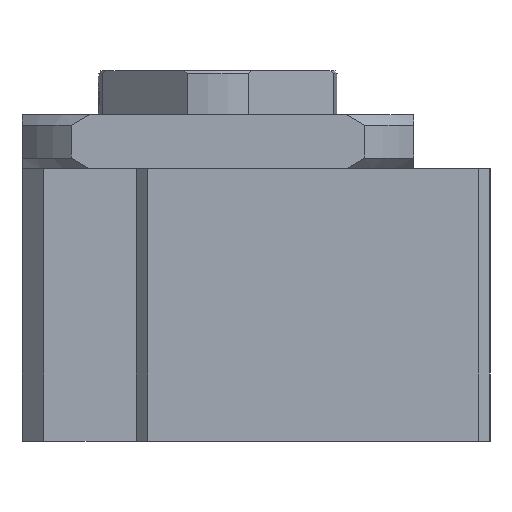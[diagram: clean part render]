
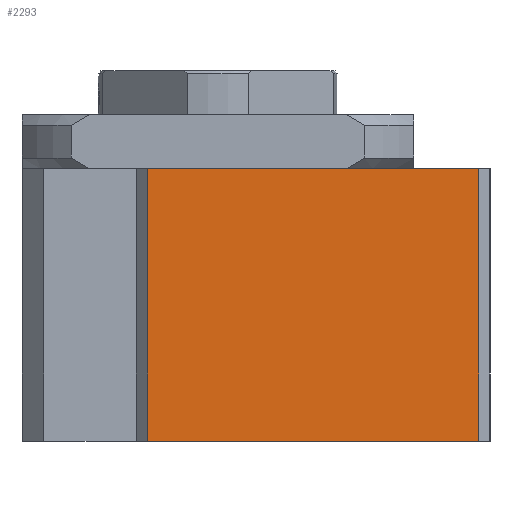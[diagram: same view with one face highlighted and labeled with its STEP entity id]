
A CAD part, left-side view. The second image highlights one B-rep face of the part: STEP entity #2293.
In plain terms, the highlighted planar face has unit normal (-1, 0, 0).
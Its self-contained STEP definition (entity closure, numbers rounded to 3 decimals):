
#117=LINE('',#3497,#289);
#130=LINE('',#3530,#302);
#131=LINE('',#3533,#303);
#132=LINE('',#3534,#304);
#289=VECTOR('',#2774,1000.);
#302=VECTOR('',#2797,1000.);
#303=VECTOR('',#2798,1000.);
#304=VECTOR('',#2799,1000.);
#453=PLANE('',#2493);
#591=ORIENTED_EDGE('',*,*,#1214,.F.);
#592=ORIENTED_EDGE('',*,*,#1215,.F.);
#593=ORIENTED_EDGE('',*,*,#1198,.T.);
#594=ORIENTED_EDGE('',*,*,#1216,.T.);
#1198=EDGE_CURVE('',#1509,#1510,#117,.T.);
#1214=EDGE_CURVE('',#1524,#1525,#130,.T.);
#1215=EDGE_CURVE('',#1509,#1524,#131,.T.);
#1216=EDGE_CURVE('',#1510,#1525,#132,.T.);
#1509=VERTEX_POINT('',#3498);
#1510=VERTEX_POINT('',#3499);
#1524=VERTEX_POINT('',#3531);
#1525=VERTEX_POINT('',#3532);
#1821=EDGE_LOOP('',(#591,#592,#593,#594));
#2043=FACE_BOUND('',#1821,.T.);
#2293=ADVANCED_FACE('',(#2043),#453,.T.);
#2493=AXIS2_PLACEMENT_3D('',#3529,#2795,#2796);
#2774=DIRECTION('',(0.,-1.,0.));
#2795=DIRECTION('',(-1.,0.,0.));
#2796=DIRECTION('',(0.,0.,1.));
#2797=DIRECTION('',(0.,-1.,0.));
#2798=DIRECTION('',(0.,0.,1.));
#2799=DIRECTION('',(0.,0.,1.));
#3497=CARTESIAN_POINT('',(-30.,6.45,-25.));
#3498=CARTESIAN_POINT('',(-30.,6.45,-25.));
#3499=CARTESIAN_POINT('',(-30.,-23.95,-25.));
#3529=CARTESIAN_POINT('',(-30.,6.45,-25.));
#3530=CARTESIAN_POINT('',(-30.,6.45,0.));
#3531=CARTESIAN_POINT('',(-30.,6.45,0.));
#3532=CARTESIAN_POINT('',(-30.,-23.95,0.));
#3533=CARTESIAN_POINT('',(-30.,6.45,-25.));
#3534=CARTESIAN_POINT('',(-30.,-23.95,-25.));
